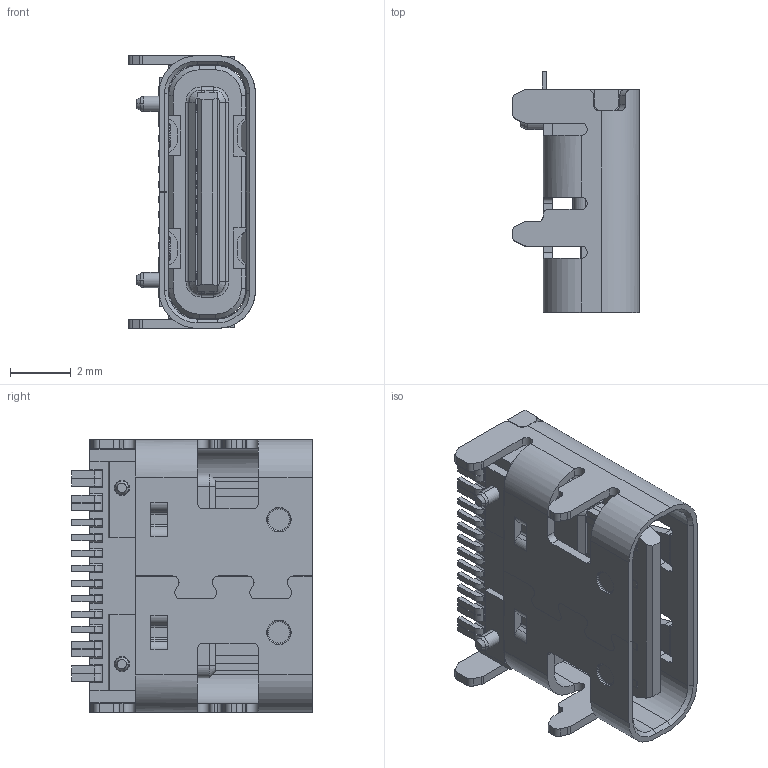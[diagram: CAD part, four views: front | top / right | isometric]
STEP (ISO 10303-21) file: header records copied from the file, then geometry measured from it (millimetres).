
FILE_DESCRIPTION((''),'2;1');
FILE_NAME('YITI','2022-05-21T',('888'),(''),'PRO/ENGINEER BY PARAMETRIC TECHNOLOGY CORPORATION, 2010480','PRO/ENGINEER BY PARAMETRIC TECHNOLOGY CORPORATION, 2010480','');
FILE_SCHEMA(('CONFIG_CONTROL_DESIGN'));
Length unit declared in the file: millimetre
Products named in the file (1): YITI
Bounding box: 4.16 x 7.9 x 8.94 mm (x, y, z)
Volume: 114.7 mm3; surface area: 469.9 mm2
Topology: 1 solids, 1 shells, 667 faces, 1953 edges, 1280 vertices
Faces by surface type: plane 461, cylinder 164, torus 20, cone 16, bspline 4, extrusion 2
Entity records: 22370 total; most frequent: CARTESIAN_POINT 4329, ORIENTED_EDGE 3906, DIRECTION 3634, EDGE_CURVE 1953, VECTOR 1484, LINE 1482, VERTEX_POINT 1280, AXIS2_PLACEMENT_3D 1075
